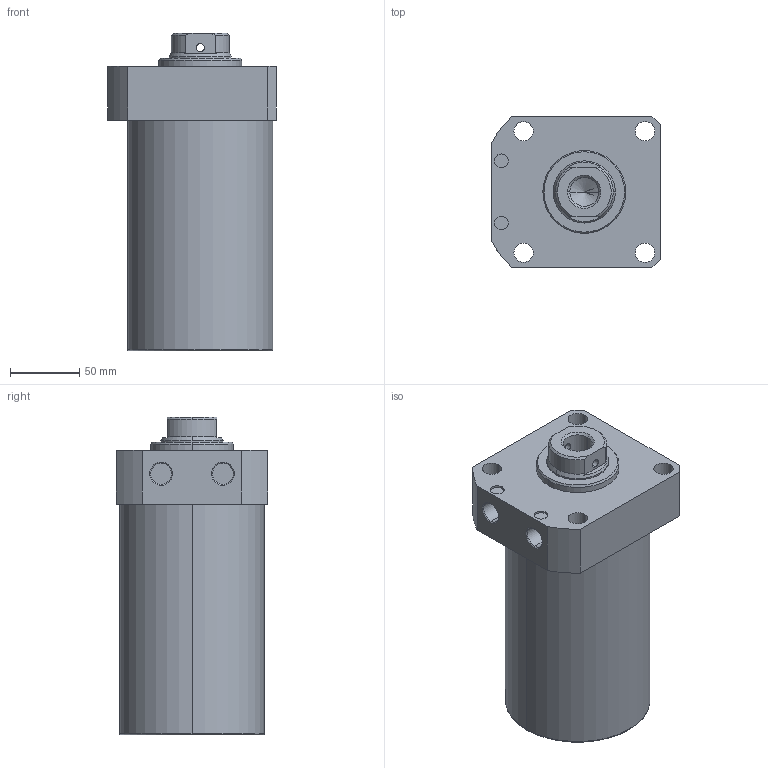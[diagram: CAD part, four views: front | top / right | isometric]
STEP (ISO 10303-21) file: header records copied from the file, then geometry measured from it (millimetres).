
FILE_DESCRIPTION (( 'STEP AP203' ), '1' );
FILE_NAME ('CLLR-105CB-120.STEP', '2019-12-18T07:31:53', ( '' ), ( '' ), 'SwSTEP 2.0', 'SolidWorks 2015', '' );
FILE_SCHEMA (( 'CONFIG_CONTROL_DESIGN' ));
Length unit declared in the file: millimetre
Products named in the file (1): CLLR-105CB-120
Bounding box: 122 x 110 x 230 mm (x, y, z)
Volume: 1942783.7 mm3; surface area: 113850.3 mm2
Topology: 1 solids, 1 shells, 69 faces, 165 edges, 104 vertices
Faces by surface type: cylinder 33, plane 19, cone 15, torus 2
Entity records: 2227 total; most frequent: CARTESIAN_POINT 481, DIRECTION 372, ORIENTED_EDGE 326, EDGE_CURVE 163, AXIS2_PLACEMENT_3D 151, VERTEX_POINT 104, EDGE_LOOP 89, CIRCLE 81
